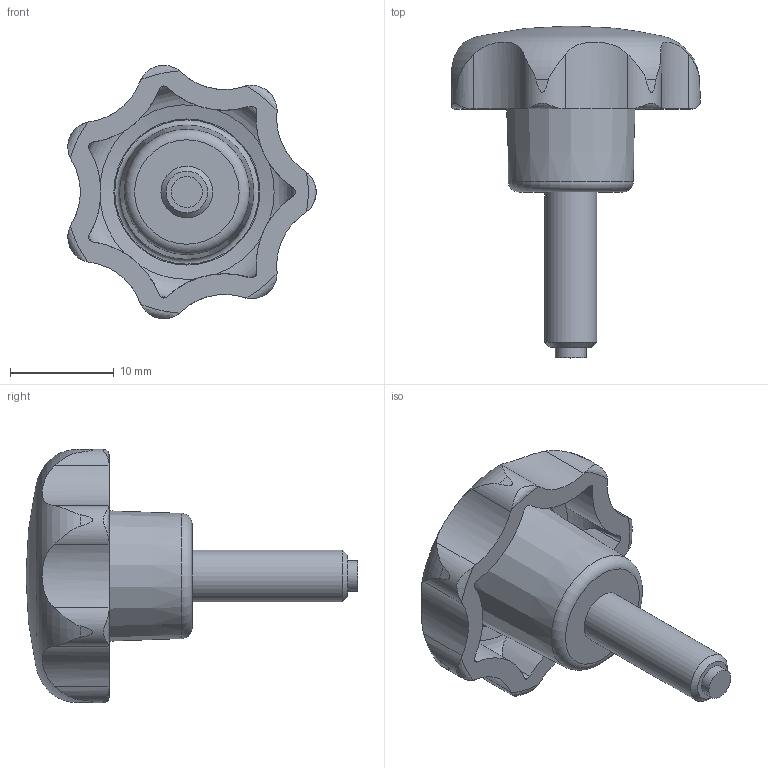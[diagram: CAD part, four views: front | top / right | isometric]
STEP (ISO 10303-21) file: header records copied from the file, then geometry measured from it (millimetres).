
FILE_DESCRIPTION( ( 'STEP AP203' ), '1' );
FILE_NAME( 'C:/Temp/Ganter_Step_05_03_2020/data/2_2/gn6336_10/Star knob GN 6336.10-25-M5-15-KU.stp', '2020-03-05T12:04:18', ( 'License CC BY-ND 4.0' ), ( 'CADENAS' ), ' ', 'PARTsolutions', ' ' );
FILE_SCHEMA( ( 'CONFIG_CONTROL_DESIGN' ) );
Length unit declared in the file: millimetre
Products named in the file (1): _Star knob GN 6336.10-25-M5-15-KU
Bounding box: 23.93 x 32 x 24.42 mm (x, y, z)
Volume: 3404.2 mm3; surface area: 2296.5 mm2
Topology: 1 solids, 1 shells, 70 faces, 194 edges, 128 vertices
Faces by surface type: cylinder 30, torus 18, cone 17, plane 4, sphere 1
Full cylindrical faces by diameter (mm): 3 x1, 5 x1
Entity records: 3018 total; most frequent: CARTESIAN_POINT 1333, ORIENTED_EDGE 358, DIRECTION 318, EDGE_CURVE 179, AXIS2_PLACEMENT_3D 145, VERTEX_POINT 124, EDGE_LOOP 82, B_SPLINE_CURVE_WITH_KNOTS 77
